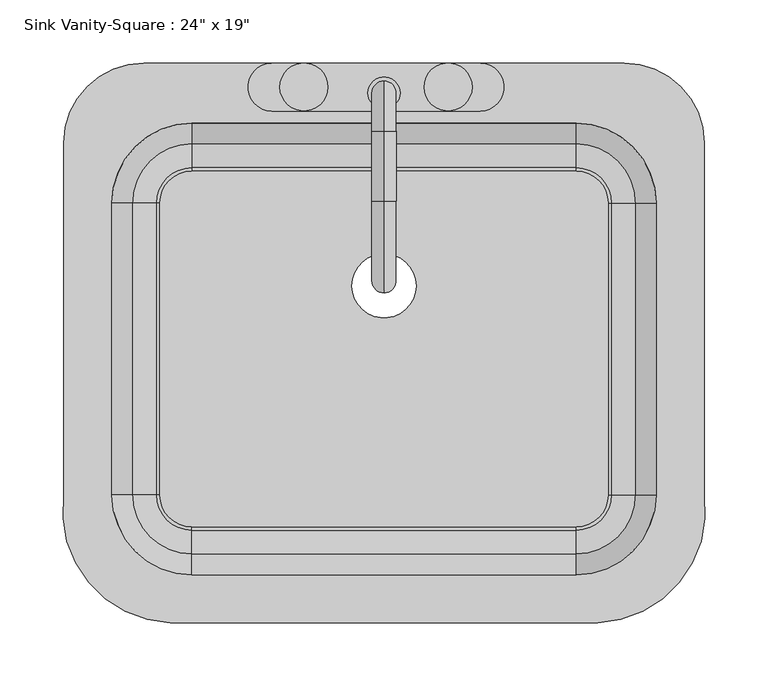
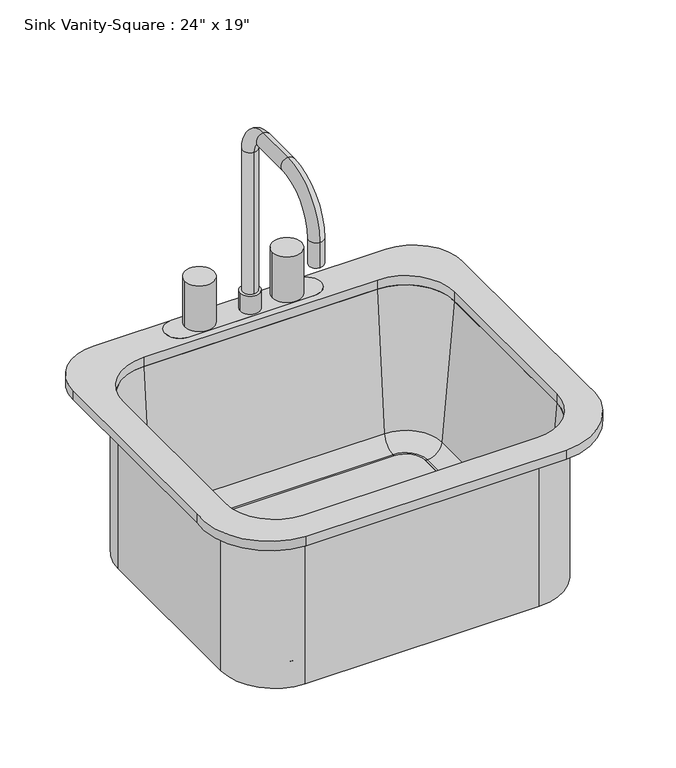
"""IFC4 building model written with IfcOpenShell, lengths in millimetres: flow terminal geometry."""

import ifcopenshell
import ifcopenshell.guid

model = None  # the IFC model being written
_history = None  # IfcOwnerHistory: only IFC2X3 demands one
_inside = {}  # id of a spatial element -> (the spatial element, [elements in it])
_under = {}  # id of a project, library or spatial element -> (it, [spatial elements below it])
_declared = {}  # id of a project -> (the project, [libraries it declares])
_typed = {}  # id of a type object -> (the type object, [elements of that type])
_made_of = {}  # id of a material, layer set ... -> (it, [elements and type objects made of it])


def new_model(schema):
    """Start an empty IFC model of exactly this schema.

    Asked for "IFC4X3", IfcOpenShell would pick the latest addendum, in which some entities
    have other attributes; the version numbers below select the first issue.
    IFC2X3 requires an IfcOwnerHistory on every rooted entity: one is made here for all.
    """
    global model, _history
    if schema == "IFC4X3":
        model = ifcopenshell.file(schema_version=(4, 3, 0, 0))
    else:
        model = ifcopenshell.file(schema=schema)
    _inside.clear()
    _under.clear()
    _declared.clear()
    _typed.clear()
    _made_of.clear()
    _history = None
    if model.schema == "IFC2X3":
        org = make("IfcOrganization", Name="unknown")
        user = make(
            "IfcPersonAndOrganization",
            ThePerson=make("IfcPerson", FamilyName="unknown"),
            TheOrganization=org,
        )
        app = make(
            "IfcApplication",
            ApplicationDeveloper=org,
            Version="unknown",
            ApplicationFullName="unknown",
            ApplicationIdentifier="unknown",
        )
        _history = make(
            "IfcOwnerHistory",
            OwningUser=user,
            OwningApplication=app,
            ChangeAction="ADDED",
            CreationDate=0,
        )
    return model


def make(cls, **values):
    """One entity of the class cls with the attributes given. An attribute that is None is left unset."""
    return model.create_entity(
        cls, **{name: value for name, value in values.items() if value is not None}
    )


def rooted(cls, **values):
    """An entity with a GlobalId (a new one), such as an element, a storey or a relation."""
    return make(cls, GlobalId=ifcopenshell.guid.new(), OwnerHistory=_history, **values)


def si_unit(unit_type, name, prefix=None):
    """IfcSIUnit, for example si_unit("LENGTHUNIT", "METRE", prefix="MILLI")."""
    return make("IfcSIUnit", UnitType=unit_type, Prefix=prefix, Name=name)


def assignment(units):
    """IfcUnitAssignment: the units of a project."""
    return None if units is None else make("IfcUnitAssignment", Units=units)


def point(xyz):
    """IfcCartesianPoint."""
    return None if xyz is None else make("IfcCartesianPoint", Coordinates=xyz)


def direction(xyz):
    """IfcDirection."""
    return None if xyz is None else make("IfcDirection", DirectionRatios=xyz)


def frame(location, z_axis=None, x_axis=None):
    """IfcAxis2Placement3D, a coordinate frame: its origin and axes. An axis left out is left unset."""
    return make(
        "IfcAxis2Placement3D",
        Location=point(location),
        Axis=direction(z_axis),
        RefDirection=direction(x_axis),
    )


def frame_2d(location, x_axis=None):
    """IfcAxis2Placement2D, a coordinate frame in the plane: its origin and x axis."""
    return make(
        "IfcAxis2Placement2D", Location=point(location), RefDirection=direction(x_axis)
    )


def origin():
    """The frame at (0, 0, 0) with its axes left unset."""
    return frame((0.0, 0.0, 0.0))


def place(relative_to, where):
    """IfcLocalPlacement: puts the frame where relative to a parent placement (None: the world)."""
    return make(
        "IfcLocalPlacement", PlacementRelTo=relative_to, RelativePlacement=where
    )


def context(
    kind, dimensions, precision=None, world=None, true_north=None, identifier=None
):
    """IfcGeometricRepresentationContext, for example the 3D "Model" context."""
    return make(
        "IfcGeometricRepresentationContext",
        ContextIdentifier=identifier,
        ContextType=kind,
        CoordinateSpaceDimension=dimensions,
        Precision=precision,
        WorldCoordinateSystem=world,
        TrueNorth=true_north,
    )


def project(units=None, contexts=None):
    """IfcProject with its units and contexts."""
    return rooted(
        "IfcProject",
        Name="project",
        RepresentationContexts=contexts,
        UnitsInContext=assignment(units),
    )


def spatial(cls, under=None, at=None, **own):
    """A site, building, storey or space (cls), placed at a placement, below another one or the project."""
    s = rooted(cls, ObjectPlacement=at, **own)
    if under is not None:
        _under.setdefault(under.id(), (under, []))[1].append(s)
    return s


def polyline(points):
    """IfcPolyline through the points."""
    return make("IfcPolyline", Points=[point(p) for p in points])


def circle_curve(where, radius):
    """IfcCircle in the frame where."""
    return make("IfcCircle", Position=where, Radius=radius)


def ellipse_curve(where, semi_axis1, semi_axis2):
    """IfcEllipse in the frame where."""
    return make(
        "IfcEllipse", Position=where, SemiAxis1=semi_axis1, SemiAxis2=semi_axis2
    )


def trimmed(basis, trim1, trim2, sense, master):
    """IfcTrimmedCurve: the piece of a basis curve between two trims."""
    return make(
        "IfcTrimmedCurve",
        BasisCurve=basis,
        Trim1=trim1,
        Trim2=trim2,
        SenseAgreement=sense,
        MasterRepresentation=master,
    )


def segment(curve, same_sense, transition):
    """IfcCompositeCurveSegment."""
    return make(
        "IfcCompositeCurveSegment",
        Transition=transition,
        SameSense=same_sense,
        ParentCurve=curve,
    )


def composite_curve(segments, self_intersect=None):
    """IfcCompositeCurve: segments joined end to end."""
    return make("IfcCompositeCurve", Segments=segments, SelfIntersect=self_intersect)


def outline(outer, holes=None, kind="AREA"):
    """IfcArbitraryClosedProfileDef: a profile drawn as a closed curve; with holes, ...WithVoids."""
    if holes is None:
        return make("IfcArbitraryClosedProfileDef", ProfileType=kind, OuterCurve=outer)
    return make(
        "IfcArbitraryProfileDefWithVoids",
        ProfileType=kind,
        OuterCurve=outer,
        InnerCurves=holes,
    )


def extrude(swept, where, along, depth):
    """IfcExtrudedAreaSolid: the profile swept, set in the frame where, extruded along a direction by depth."""
    return make(
        "IfcExtrudedAreaSolid",
        SweptArea=swept,
        Position=where,
        ExtrudedDirection=direction(along),
        Depth=depth,
    )


def shape(context_of_items, identifier, shape_type, items):
    """IfcShapeRepresentation: the items that make up one representation, for example the "Body"."""
    return make(
        "IfcShapeRepresentation",
        ContextOfItems=context_of_items,
        RepresentationIdentifier=identifier,
        RepresentationType=shape_type,
        Items=items,
    )


def source(mapping_origin, context_of_items, identifier, shape_type, items):
    """IfcRepresentationMap: a shape defined once, which mapped items show again and again."""
    return make(
        "IfcRepresentationMap",
        MappingOrigin=mapping_origin,
        MappedRepresentation=shape(context_of_items, identifier, shape_type, items),
    )


def transform(
    local_origin,
    x_axis=None,
    y_axis=None,
    z_axis=None,
    scale=None,
    scale2=None,
    scale3=None,
    uniform=True,
):
    """IfcCartesianTransformationOperator3D, or its non-uniform kind. x_axis, y_axis, z_axis: its Axis1, 2, 3."""
    if uniform:
        return make(
            "IfcCartesianTransformationOperator3D",
            Axis1=direction(x_axis),
            Axis2=direction(y_axis),
            LocalOrigin=point(local_origin),
            Scale=scale,
            Axis3=direction(z_axis),
        )
    return make(
        "IfcCartesianTransformationOperator3DnonUniform",
        Axis1=direction(x_axis),
        Axis2=direction(y_axis),
        LocalOrigin=point(local_origin),
        Scale=scale,
        Axis3=direction(z_axis),
        Scale2=scale2,
        Scale3=scale3,
    )


def mapped(mapping_source, mapping_target):
    """IfcMappedItem: shows the shape of a source again, moved by a transform."""
    return make(
        "IfcMappedItem", MappingSource=mapping_source, MappingTarget=mapping_target
    )


def made_of(thing, what):
    """Note that an element or type object is made of a material, layer set ...; save() writes the relation."""
    if what is not None:
        _made_of.setdefault(what.id(), (what, []))[1].append(thing)
    return thing


def element(
    cls,
    number,
    at=None,
    inside=None,
    cuts=None,
    type_object=None,
    material=None,
    context=None,
    identifier="Body",
    shape_type=None,
    held_by="IfcProductDefinitionShape",
    body=None,
    shapes=None,
    **own,
):
    """One element of the class cls, such as IfcWall. Its Tag is "e" and its number.

    at: its placement. inside: the storey or other place that contains it. cuts: it is an
    opening in that element (IfcRelVoidsElement). A single representation is given by context,
    identifier, shape_type and body (its items); several are given by shapes. held_by: the class
    of the entity that holds the representations. save() writes the other relations.
    """
    e = rooted(cls, Tag="e%d" % number, ObjectPlacement=at, **own)
    if body is not None:
        shapes = [shape(context, identifier, shape_type, body)]
    if shapes is not None:
        e.Representation = make(held_by, Representations=shapes)
    if inside is not None:
        _inside.setdefault(inside.id(), (inside, []))[1].append(e)
    if cuts is not None:
        rooted(
            "IfcRelVoidsElement", RelatingBuildingElement=cuts, RelatedOpeningElement=e
        )
    if type_object is not None:
        _typed.setdefault(type_object.id(), (type_object, []))[1].append(e)
    return made_of(e, material)


def aggregate(whole, parts):
    """IfcRelAggregates: a whole, such as a stair, and the parts it consists of."""
    return rooted("IfcRelAggregates", RelatingObject=whole, RelatedObjects=parts)


def save(model, path):
    """Write the relations noted so far, then the file.

    IfcRelAggregates (storeys below a building ...), IfcRelContainedInSpatialStructure (elements
    in a storey), IfcRelDefinesByType, IfcRelAssociatesMaterial and IfcRelDeclares: one each for
    every whole, place, type object, material and project.
    """
    for whole, parts in _under.values():
        aggregate(whole, parts)
    for where, things in _inside.values():
        rooted(
            "IfcRelContainedInSpatialStructure",
            RelatedElements=things,
            RelatingStructure=where,
        )
    for kind, things in _typed.values():
        rooted("IfcRelDefinesByType", RelatedObjects=things, RelatingType=kind)
    for what, things in _made_of.values():
        rooted("IfcRelAssociatesMaterial", RelatedObjects=things, RelatingMaterial=what)
    for by, libraries in _declared.values():
        rooted("IfcRelDeclares", RelatingContext=by, RelatedDefinitions=libraries)
    model.write(path)


def plane_surface(at):
    """IfcPlane: the flat surface through the origin of the frame at, square to its z axis."""
    return make("IfcPlane", Position=at)


def cylinder_surface(at, radius):
    """IfcCylindricalSurface: all points at the distance radius from the z axis of the frame at."""
    return make("IfcCylindricalSurface", Position=at, Radius=radius)


def revolved_surface(curve, axis_point, axis_direction):
    """IfcSurfaceOfRevolution: the curve turned about the line through axis_point along axis_direction."""
    return make(
        "IfcSurfaceOfRevolution",
        SweptCurve=make("IfcArbitraryOpenProfileDef", ProfileType="CURVE", Curve=curve),
        AxisPosition=make("IfcAxis1Placement", Location=point(axis_point), Axis=direction(axis_direction)),
    )


def advanced_brep(points, edges, surfaces, faces):
    """IfcAdvancedBrep: a solid bounded by faces that lie on surfaces and meet in shared edges.

    An edge is (start, end): straight between two places in points (the first is 0);
    or (start, end, curve); or (start, end, curve, False) where it runs against its curve.
    A face is (place in surfaces, loops), or (place, loops, False) where it looks against
    its surface's normal. A loop lists edges by number (the first is 1), with a minus sign
    where the edge is run from its end to its start. The first loop is the outer one.
    """
    corners = [point(p) for p in points]
    vertices = [make("IfcVertexPoint", VertexGeometry=c) for c in corners]
    made = []
    for start, end, *more in edges:
        made.append(
            make(
                "IfcEdgeCurve",
                EdgeStart=vertices[start],
                EdgeEnd=vertices[end],
                EdgeGeometry=more[0] if more else make("IfcPolyline", Points=[corners[start], corners[end]]),
                SameSense=more[1] if len(more) > 1 else True,
            )
        )
    hull = []
    for where, loops, *sense in faces:
        bounds = []
        for j, loop in enumerate(loops):
            ring = [make("IfcOrientedEdge", EdgeElement=made[abs(k) - 1], Orientation=k > 0) for k in loop]
            bounds.append(
                make(
                    "IfcFaceOuterBound" if j == 0 else "IfcFaceBound",
                    Bound=make("IfcEdgeLoop", EdgeList=ring),
                    Orientation=True,
                )
            )
        hull.append(make("IfcAdvancedFace", Bounds=bounds, FaceSurface=surfaces[where], SameSense=sense[0] if sense else True))
    return make("IfcAdvancedBrep", Outer=make("IfcClosedShell", CfsFaces=hull))


def flow_terminal_0aeb31e3(model_context):
    return source(origin(), model_context, "Body", "SolidModel", [
        extrude(outline(composite_curve([segment(trimmed(circle_curve(frame_2d((91.8892406, 161.0954011)), 19.05), [point((91.8892406, 180.1454011))], [point((91.8892406, 142.0454011))], False, "CARTESIAN"), True, "CONTINUOUS"), segment(polyline([(91.8892406, 142.0454011), (-73.2107594, 142.0454011)]), True, "CONTINUOUS"), segment(trimmed(circle_curve(frame_2d((-73.2107594, 161.0954011)), 19.05), [point((-73.2107594, 142.0454011))], [point((-73.2107594, 180.1454011))], False, "CARTESIAN"), True, "CONTINUOUS"), segment(polyline([(-73.2107594, 180.1454011), (91.8892406, 180.1454011)]), True, "CONTINUOUS")], self_intersect=False)), frame((0.0, 0.0, 775.2), z_axis=(0.0, 0.0, 1.0), x_axis=(1.0, 0.0, 0.0)), (0.0, 0.0, 1.0), 24.9),
        extrude(outline(composite_curve([segment(trimmed(circle_curve(frame_2d((15.6892406, 156.3329011)), 12.7), [point((2.9892406, 156.3329011))], [point((28.3892406, 156.3329011))], False, "CARTESIAN"), True, "CONTINUOUS"), segment(trimmed(circle_curve(frame_2d((15.6892406, 156.3329011)), 12.7), [point((28.3892406, 156.3329011))], [point((2.9892406, 156.3329011))], False, "CARTESIAN"), True, "CONTINUOUS")], self_intersect=False)), frame((0.0, 0.0, 800.1), z_axis=(0.0, 0.0, 1.0), x_axis=(1.0, 0.0, 0.0)), (0.0, 0.0, 1.0), 25.4),
        advanced_brep(
        [(15.6892406, 165.8579011, 800.1), (15.6892406, 146.8079011, 800.1), (15.6892406, 165.8579011, 1020.7625), (15.6892406, 146.8079011, 1020.7625), (15.6892406, 126.1704011, 1041.4), (15.6892406, 126.1704011, 1060.45), (15.6892406, 70.6079011, 1060.45), (15.6892406, 70.6079011, 1041.4), (15.6892406, 16.6329011, 987.425), (15.6892406, -2.4170989, 987.425), (15.6892406, -2.4170989, 952.5), (15.6892406, 16.6329011, 952.5)],
        [
            (0, 1, circle_curve(frame((15.6892406, 156.3329011, 800.1), z_axis=(0.0, 0.0, -1.0), x_axis=(0.0, -1.0, 0.0)), 9.525)),
            (1, 0, circle_curve(frame((15.6892406, 156.3329011, 800.1), z_axis=(0.0, 0.0, -1.0), x_axis=(0.0, -1.0, 0.0)), 9.525)),
            (0, 2),
            (2, 3, circle_curve(frame((15.6892406, 156.3329011, 1020.7625), z_axis=(0.0, 0.0, -1.0), x_axis=(0.0, -1.0, 0.0)), 9.525)),
            (3, 1),
            (3, 2, circle_curve(frame((15.6892406, 156.3329011, 1020.7625), z_axis=(0.0, 0.0, -1.0), x_axis=(0.0, -1.0, 0.0)), 9.525)),
            (4, 3, circle_curve(frame((15.6892406, 126.1704011, 1020.7625), z_axis=(-1.0, 0.0, 0.0), x_axis=(0.0, 1.0, 0.0)), 20.6375)),
            (2, 5, circle_curve(frame((15.6892406, 126.1704011, 1020.7625), z_axis=(1.0, 0.0, 0.0), x_axis=(0.0, 1.0, 0.0)), 39.6875)),
            (5, 4, circle_curve(frame((15.6892406, 126.1704011, 1050.925), z_axis=(0.0, 1.0, 0.0), x_axis=(0.0, 0.0, -1.0)), 9.525)),
            (4, 5, circle_curve(frame((15.6892406, 126.1704011, 1050.925), z_axis=(0.0, 1.0, 0.0), x_axis=(0.0, 0.0, -1.0)), 9.525)),
            (5, 6),
            (6, 7, circle_curve(frame((15.6892406, 70.6079011, 1050.925), z_axis=(0.0, 1.0, 0.0), x_axis=(0.0, 0.0, -1.0)), 9.525)),
            (7, 4),
            (7, 6, circle_curve(frame((15.6892406, 70.6079011, 1050.925), z_axis=(0.0, 1.0, 0.0), x_axis=(0.0, 0.0, -1.0)), 9.525)),
            (8, 7, circle_curve(frame((15.6892406, 70.6079011, 987.425), z_axis=(-1.0, 0.0, 0.0), x_axis=(0.0, 0.0, 1.0)), 53.975)),
            (6, 9, circle_curve(frame((15.6892406, 70.6079011, 987.425), z_axis=(1.0, 0.0, 0.0), x_axis=(0.0, 0.0, 1.0)), 73.025)),
            (9, 8, circle_curve(frame((15.6892406, 7.1079011, 987.425), z_axis=(0.0, 0.0, 1.0), x_axis=(0.0, 1.0, 0.0)), 9.525)),
            (8, 9, circle_curve(frame((15.6892406, 7.1079011, 987.425), z_axis=(0.0, 0.0, 1.0), x_axis=(0.0, 1.0, 0.0)), 9.525)),
            (10, 11, circle_curve(frame((15.6892406, 7.1079011, 952.5), z_axis=(0.0, 0.0, -1.0), x_axis=(0.0, 1.0, 0.0)), 9.525)),
            (11, 10, circle_curve(frame((15.6892406, 7.1079011, 952.5), z_axis=(0.0, 0.0, -1.0), x_axis=(0.0, 1.0, 0.0)), 9.525)),
            (9, 10),
            (11, 8),
        ],
        [
            plane_surface(frame((15.6892406, 146.8079011, 800.1), z_axis=(0.0, 0.0, -1.0), x_axis=(1.0, 0.0, 0.0))),
            cylinder_surface(frame((15.6892406, 156.3329011, 800.1), z_axis=(0.0, 0.0, -1.0), x_axis=(0.0, -1.0, 0.0)), 9.525),
            revolved_surface(trimmed(ellipse_curve(frame((15.6892406, 156.3329011, 1020.7625), z_axis=(0.0, 0.0, -1.0), x_axis=(0.0, -1.0, 0.0)), 9.525, 9.525), [point((15.6892406, 165.8579011, 1020.7625))], [point((15.6892406, 146.8079011, 1020.7625))], True, "CARTESIAN"), (15.6892406, 126.1704011, 1020.7625), (1.0, 0.0, 0.0)),
            revolved_surface(trimmed(ellipse_curve(frame((15.6892406, 156.3329011, 1020.7625), z_axis=(0.0, 0.0, -1.0), x_axis=(0.0, -1.0, 0.0)), 9.525, 9.525), [point((15.6892406, 146.8079011, 1020.7625))], [point((15.6892406, 165.8579011, 1020.7625))], True, "CARTESIAN"), (15.6892406, 126.1704011, 1020.7625), (1.0, 0.0, 0.0)),
            cylinder_surface(frame((15.6892406, 126.1704011, 1050.925), z_axis=(0.0, 1.0, 0.0), x_axis=(0.0, 0.0, -1.0)), 9.525),
            revolved_surface(trimmed(ellipse_curve(frame((15.6892406, 70.6079011, 1050.925), z_axis=(0.0, 1.0, 0.0), x_axis=(0.0, 0.0, -1.0)), 9.525, 9.525), [point((15.6892406, 70.6079011, 1060.45))], [point((15.6892406, 70.6079011, 1041.4))], True, "CARTESIAN"), (15.6892406, 70.6079011, 987.425), (1.0, 0.0, 0.0)),
            revolved_surface(trimmed(ellipse_curve(frame((15.6892406, 70.6079011, 1050.925), z_axis=(0.0, 1.0, 0.0), x_axis=(0.0, 0.0, -1.0)), 9.525, 9.525), [point((15.6892406, 70.6079011, 1041.4))], [point((15.6892406, 70.6079011, 1060.45))], True, "CARTESIAN"), (15.6892406, 70.6079011, 987.425), (1.0, 0.0, 0.0)),
            plane_surface(frame((15.6892406, -2.4170989, 952.5), z_axis=(0.0, 0.0, -1.0), x_axis=(-1.0, 0.0, 0.0))),
            cylinder_surface(frame((15.6892406, 7.1079011, 987.425), z_axis=(0.0, 0.0, 1.0), x_axis=(0.0, 1.0, 0.0)), 9.525),
        ],
        [
            (0, [[1, 2]]),
            (1, [[-1, 3, 4, 5]]),
            (1, [[-2, -5, 6, -3]]),
            (2, [[7, -4, 8, 9]]),
            (3, [[-8, -6, -7, 10]]),
            (4, [[-9, 11, 12, 13]]),
            (4, [[-10, -13, 14, -11]]),
            (5, [[15, -12, 16, 17]]),
            (6, [[-16, -14, -15, 18]]),
            (7, [[19, 20]]),
            (8, [[-17, 21, -20, 22]]),
            (8, [[-18, -22, -19, -21]]),
        ],
    ),
        extrude(outline(composite_curve([segment(trimmed(circle_curve(frame_2d((-47.8107594, 161.0954011)), 19.05), [point((-66.8607594, 161.0954011))], [point((-28.7607594, 161.0954011))], False, "CARTESIAN"), True, "CONTINUOUS"), segment(trimmed(circle_curve(frame_2d((-47.8107594, 161.0954011)), 19.05), [point((-28.7607594, 161.0954011))], [point((-66.8607594, 161.0954011))], False, "CARTESIAN"), True, "CONTINUOUS")], self_intersect=False)), frame((0.0, 0.0, 800.1), z_axis=(0.0, 0.0, 1.0), x_axis=(1.0, 0.0, 0.0)), (0.0, 0.0, 1.0), 63.5),
        extrude(outline(composite_curve([segment(trimmed(circle_curve(frame_2d((66.4892406, 161.0954011)), 19.05), [point((47.4392406, 161.0954011))], [point((85.5392406, 161.0954011))], False, "CARTESIAN"), True, "CONTINUOUS"), segment(trimmed(circle_curve(frame_2d((66.4892406, 161.0954011)), 19.05), [point((85.5392406, 161.0954011))], [point((47.4392406, 161.0954011))], False, "CARTESIAN"), True, "CONTINUOUS")], self_intersect=False)), frame((0.0, 0.0, 800.1), z_axis=(0.0, 0.0, 1.0), x_axis=(1.0, 0.0, 0.0)), (0.0, 0.0, 1.0), 63.5),
        extrude(outline(composite_curve([segment(trimmed(circle_curve(frame_2d((168.0892406, 69.0204011)), 25.4), [point((168.0892406, 94.4204011))], [point((193.4892406, 69.0204011))], False, "CARTESIAN"), True, "CONTINUOUS"), segment(polyline([(193.4892406, 69.0204011), (193.4892406, -162.7545989)]), True, "CONTINUOUS"), segment(trimmed(circle_curve(frame_2d((168.0892406, -162.7545989)), 25.4), [point((193.4892406, -162.7545989))], [point((168.0892406, -188.1545989))], False, "CARTESIAN"), True, "CONTINUOUS"), segment(polyline([(168.0892406, -188.1545989), (-136.7107594, -188.1545989)]), True, "CONTINUOUS"), segment(trimmed(circle_curve(frame_2d((-136.7107594, -162.7545989)), 25.4), [point((-136.7107594, -188.1545989))], [point((-162.1107594, -162.7545989))], False, "CARTESIAN"), True, "CONTINUOUS"), segment(polyline([(-162.1107594, -162.7545989), (-162.1107594, 69.0204011)]), True, "CONTINUOUS"), segment(trimmed(circle_curve(frame_2d((-136.7107594, 69.0204011)), 25.4), [point((-162.1107594, 69.0204011))], [point((-136.7107594, 94.4204011))], False, "CARTESIAN"), True, "CONTINUOUS"), segment(polyline([(-136.7107594, 94.4204011), (168.0892406, 94.4204011)]), True, "CONTINUOUS")], self_intersect=False), holes=[composite_curve([segment(trimmed(circle_curve(frame_2d((15.6892406, 3.175)), 25.4), [point((-9.7107594, 3.175))], [point((41.0892406, 3.175))], True, "CARTESIAN"), True, "CONTINUOUS"), segment(trimmed(circle_curve(frame_2d((15.6892406, 3.175)), 25.4), [point((41.0892406, 3.175))], [point((-9.7107594, 3.175))], True, "CARTESIAN"), True, "CONTINUOUS")], self_intersect=False)]), frame((0.0, 0.0, 571.5), z_axis=(0.0, 0.0, 1.0), x_axis=(1.0, 0.0, 0.0)), (0.0, 0.0, 1.0), 9.525),
        advanced_brep(
        [(237.9392406, 69.0204011, 571.5), (168.0892406, 138.8704011, 571.5), (168.0892406, 138.8704011, 787.4), (237.9392406, 69.0204011, 787.4), (193.4892406, 69.0204011, 571.5), (168.0892406, 94.4204011, 571.5), (193.4892406, 69.0204011, 581.025), (168.0892406, 94.4204011, 581.025), (196.0776588, 69.0204011, 581.025), (168.0892406, 97.0088193, 581.025), (215.0551678, 69.0204011, 598.4146831), (168.0892406, 115.9863283, 598.4146831), (231.5892406, 69.0204011, 787.4), (168.0892406, 132.5204011, 787.4), (237.9392406, -162.7545989, 787.4), (237.9392406, -162.7545989, 571.5), (193.4892406, -162.7545989, 571.5), (193.4892406, -162.7545989, 581.025), (196.0776588, -162.7545989, 581.025), (215.0551678, -162.7545989, 598.4146831), (231.5892406, -162.7545989, 787.4), (168.0892406, -232.6045989, 571.5), (168.0892406, -232.6045989, 787.4), (168.0892406, -188.1545989, 571.5), (168.0892406, -188.1545989, 581.025), (168.0892406, -190.7430171, 581.025), (168.0892406, -209.7205261, 598.4146831), (168.0892406, -226.2545989, 787.4), (-136.7107594, -232.6045989, 787.4), (-136.7107594, -232.6045989, 571.5), (-136.7107594, -188.1545989, 571.5), (-136.7107594, -188.1545989, 581.025), (-136.7107594, -190.7430171, 581.025), (-136.7107594, -209.7205261, 598.4146831), (-136.7107594, -226.2545989, 787.4), (-206.5607594, -162.7545989, 571.5), (-206.5607594, -162.7545989, 787.4), (-162.1107594, -162.7545989, 571.5), (-162.1107594, -162.7545989, 581.025), (-164.6991776, -162.7545989, 581.025), (-183.6766866, -162.7545989, 598.4146831), (-200.2107594, -162.7545989, 787.4), (-206.5607594, 69.0204011, 787.4), (-206.5607594, 69.0204011, 571.5), (-162.1107594, 69.0204011, 571.5), (-162.1107594, 69.0204011, 581.025), (-164.6991776, 69.0204011, 581.025), (-183.6766866, 69.0204011, 598.4146831), (-200.2107594, 69.0204011, 787.4), (-136.7107594, 138.8704011, 571.5), (-136.7107594, 138.8704011, 787.4), (-136.7107594, 94.4204011, 571.5), (-136.7107594, 94.4204011, 581.025), (-136.7107594, 97.0088193, 581.025), (-136.7107594, 115.9863283, 598.4146831), (-136.7107594, 132.5204011, 787.4)],
        [
            (0, 1, circle_curve(frame((168.0892406, 69.0204011, 571.5), z_axis=(0.0, 0.0, 1.0), x_axis=(0.0, 1.0, 0.0)), 69.85)),
            (1, 2),
            (2, 3, circle_curve(frame((168.0892406, 69.0204011, 787.4), z_axis=(0.0, 0.0, -1.0), x_axis=(0.0, 1.0, 0.0)), 69.85)),
            (3, 0),
            (4, 5, circle_curve(frame((168.0892406, 69.0204011, 571.5), z_axis=(0.0, 0.0, 1.0), x_axis=(0.0, 1.0, 0.0)), 25.4)),
            (5, 1),
            (0, 4),
            (6, 7, circle_curve(frame((168.0892406, 69.0204011, 581.025), z_axis=(0.0, 0.0, 1.0), x_axis=(0.0, 1.0, 0.0)), 25.4)),
            (7, 5),
            (4, 6),
            (8, 9, circle_curve(frame((168.0892406, 69.0204011, 581.025), z_axis=(0.0, 0.0, 1.0), x_axis=(0.0, 1.0, 0.0)), 27.9884182)),
            (9, 7),
            (6, 8),
            (10, 11, circle_curve(frame((168.0892406, 69.0204011, 598.4146831), z_axis=(0.0, 0.0, 1.0), x_axis=(0.0, 1.0, 0.0)), 46.9659272)),
            (11, 9, circle_curve(frame((168.0892406, 97.0088193, 600.075), z_axis=(-1.0, 0.0, 0.0), x_axis=(0.0, 1.0, 0.0)), 19.05)),
            (8, 10, circle_curve(frame((196.0776588, 69.0204011, 600.075), z_axis=(0.0, -1.0, 0.0), x_axis=(1.0, 0.0, 0.0)), 19.05)),
            (12, 13, circle_curve(frame((168.0892406, 69.0204011, 787.4), z_axis=(0.0, 0.0, 1.0), x_axis=(0.0, 1.0, 0.0)), 63.5)),
            (13, 11),
            (10, 12),
            (2, 13),
            (12, 3),
            (3, 14),
            (14, 15),
            (15, 0),
            (15, 16),
            (16, 4),
            (16, 17),
            (17, 6),
            (17, 18),
            (18, 8),
            (18, 19, circle_curve(frame((196.0776588, -162.7545989, 600.075), z_axis=(0.0, -1.0, 0.0), x_axis=(1.0, 0.0, 0.0)), 19.05)),
            (19, 10),
            (19, 20),
            (20, 12),
            (20, 14),
            (21, 15, circle_curve(frame((168.0892406, -162.7545989, 571.5), z_axis=(0.0, 0.0, 1.0), x_axis=(1.0, 0.0, 0.0)), 69.85)),
            (14, 22, circle_curve(frame((168.0892406, -162.7545989, 787.4), z_axis=(0.0, 0.0, -1.0), x_axis=(1.0, 0.0, 0.0)), 69.85)),
            (22, 21),
            (23, 16, circle_curve(frame((168.0892406, -162.7545989, 571.5), z_axis=(0.0, 0.0, 1.0), x_axis=(1.0, 0.0, 0.0)), 25.4)),
            (21, 23),
            (24, 17, circle_curve(frame((168.0892406, -162.7545989, 581.025), z_axis=(0.0, 0.0, 1.0), x_axis=(1.0, 0.0, 0.0)), 25.4)),
            (23, 24),
            (25, 18, circle_curve(frame((168.0892406, -162.7545989, 581.025), z_axis=(0.0, 0.0, 1.0), x_axis=(1.0, 0.0, 0.0)), 27.9884182)),
            (24, 25),
            (26, 19, circle_curve(frame((168.0892406, -162.7545989, 598.4146831), z_axis=(0.0, 0.0, 1.0), x_axis=(1.0, 0.0, 0.0)), 46.9659272)),
            (25, 26, circle_curve(frame((168.0892406, -190.7430171, 600.075), z_axis=(-1.0, 0.0, 0.0), x_axis=(0.0, -1.0, 0.0)), 19.05)),
            (27, 20, circle_curve(frame((168.0892406, -162.7545989, 787.4), z_axis=(0.0, 0.0, 1.0), x_axis=(1.0, 0.0, 0.0)), 63.5)),
            (26, 27),
            (27, 22),
            (22, 28),
            (28, 29),
            (29, 21),
            (29, 30),
            (30, 23),
            (30, 31),
            (31, 24),
            (31, 32),
            (32, 25),
            (32, 33, circle_curve(frame((-136.7107594, -190.7430171, 600.075), z_axis=(-1.0, 0.0, 0.0), x_axis=(0.0, -1.0, 0.0)), 19.05)),
            (33, 26),
            (33, 34),
            (34, 27),
            (34, 28),
            (35, 29, circle_curve(frame((-136.7107594, -162.7545989, 571.5), z_axis=(0.0, 0.0, 1.0), x_axis=(0.0, -1.0, 0.0)), 69.85)),
            (28, 36, circle_curve(frame((-136.7107594, -162.7545989, 787.4), z_axis=(0.0, 0.0, -1.0), x_axis=(0.0, -1.0, 0.0)), 69.85)),
            (36, 35),
            (37, 30, circle_curve(frame((-136.7107594, -162.7545989, 571.5), z_axis=(0.0, 0.0, 1.0), x_axis=(0.0, -1.0, 0.0)), 25.4)),
            (35, 37),
            (38, 31, circle_curve(frame((-136.7107594, -162.7545989, 581.025), z_axis=(0.0, 0.0, 1.0), x_axis=(0.0, -1.0, 0.0)), 25.4)),
            (37, 38),
            (39, 32, circle_curve(frame((-136.7107594, -162.7545989, 581.025), z_axis=(0.0, 0.0, 1.0), x_axis=(0.0, -1.0, 0.0)), 27.9884182)),
            (38, 39),
            (40, 33, circle_curve(frame((-136.7107594, -162.7545989, 598.4146831), z_axis=(0.0, 0.0, 1.0), x_axis=(0.0, -1.0, 0.0)), 46.9659272)),
            (39, 40, circle_curve(frame((-164.6991776, -162.7545989, 600.075), z_axis=(0.0, 1.0, 0.0), x_axis=(-1.0, 0.0, 0.0)), 19.05)),
            (41, 34, circle_curve(frame((-136.7107594, -162.7545989, 787.4), z_axis=(0.0, 0.0, 1.0), x_axis=(0.0, -1.0, 0.0)), 63.5)),
            (40, 41),
            (41, 36),
            (36, 42),
            (42, 43),
            (43, 35),
            (43, 44),
            (44, 37),
            (44, 45),
            (45, 38),
            (45, 46),
            (46, 39),
            (46, 47, circle_curve(frame((-164.6991776, 69.0204011, 600.075), z_axis=(0.0, 1.0, 0.0), x_axis=(-1.0, 0.0, 0.0)), 19.05)),
            (47, 40),
            (47, 48),
            (48, 41),
            (48, 42),
            (49, 43, circle_curve(frame((-136.7107594, 69.0204011, 571.5), z_axis=(0.0, 0.0, 1.0), x_axis=(-1.0, 0.0, 0.0)), 69.85)),
            (42, 50, circle_curve(frame((-136.7107594, 69.0204011, 787.4), z_axis=(0.0, 0.0, -1.0), x_axis=(-1.0, 0.0, 0.0)), 69.85)),
            (50, 49),
            (51, 44, circle_curve(frame((-136.7107594, 69.0204011, 571.5), z_axis=(0.0, 0.0, 1.0), x_axis=(-1.0, 0.0, 0.0)), 25.4)),
            (49, 51),
            (52, 45, circle_curve(frame((-136.7107594, 69.0204011, 581.025), z_axis=(0.0, 0.0, 1.0), x_axis=(-1.0, 0.0, 0.0)), 25.4)),
            (51, 52),
            (53, 46, circle_curve(frame((-136.7107594, 69.0204011, 581.025), z_axis=(0.0, 0.0, 1.0), x_axis=(-1.0, 0.0, 0.0)), 27.9884182)),
            (52, 53),
            (54, 47, circle_curve(frame((-136.7107594, 69.0204011, 598.4146831), z_axis=(0.0, 0.0, 1.0), x_axis=(-1.0, 0.0, 0.0)), 46.9659272)),
            (53, 54, circle_curve(frame((-136.7107594, 97.0088193, 600.075), z_axis=(1.0, 0.0, 0.0), x_axis=(0.0, 1.0, 0.0)), 19.05)),
            (55, 48, circle_curve(frame((-136.7107594, 69.0204011, 787.4), z_axis=(0.0, 0.0, 1.0), x_axis=(-1.0, 0.0, 0.0)), 63.5)),
            (54, 55),
            (55, 50),
            (50, 2),
            (1, 49),
            (5, 51),
            (7, 52),
            (9, 53),
            (11, 54),
            (13, 55),
        ],
        [
            cylinder_surface(frame((168.0892406, 69.0204011, 0.0), z_axis=(0.0, 0.0, -1.0), x_axis=(0.0, 1.0, 0.0)), 69.85),
            plane_surface(frame((168.0892406, 69.0204011, 571.5), z_axis=(0.0, 0.0, -1.0), x_axis=(0.0, 1.0, 0.0))),
            revolved_surface(polyline([(168.0892406, 94.42040109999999, 571.5), (168.0892406, 94.42040109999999, 581.025)]), (168.0892406, 69.0204011, 0.0), (0.0, 0.0, -1.0)),
            plane_surface(frame((168.0892406, 69.0204011, 581.025), z_axis=(0.0, 0.0, 1.0), x_axis=(0.0, 1.0, 0.0))),
            revolved_surface(trimmed(ellipse_curve(frame((168.0892406, 97.0088193, 600.075), z_axis=(1.0, 0.0, 0.0), x_axis=(0.0, 1.0, 0.0)), 19.05, 19.05), [point((168.0892406, 97.0088193, 581.025))], [point((168.0892406, 115.9863283, 598.4146831))], True, "CARTESIAN"), (168.0892406, 69.0204011, 0.0), (0.0, 0.0, -1.0)),
            revolved_surface(polyline([(168.0892406, 115.9863283, 598.4146831), (168.0892406, 132.5204011, 787.4)]), (168.0892406, 69.0204011, 0.0), (0.0, 0.0, -1.0)),
            plane_surface(frame((168.0892406, 69.0204011, 787.4), z_axis=(0.0, 0.0, 1.0), x_axis=(0.0, 1.0, 0.0))),
            plane_surface(frame((237.9392406, 69.0204011, 787.4), z_axis=(1.0, 0.0, 0.0), x_axis=(0.0, -1.0, 0.0))),
            plane_surface(frame((237.9392406, 69.0204011, 571.5), z_axis=(0.0, 0.0, -1.0), x_axis=(0.0, -1.0, 0.0))),
            plane_surface(frame((193.4892406, 69.0204011, 571.5), z_axis=(-1.0, 0.0, 0.0), x_axis=(0.0, -1.0, 0.0))),
            plane_surface(frame((193.4892406, 69.0204011, 581.025), z_axis=(0.0, 0.0, 1.0), x_axis=(0.0, -1.0, 0.0))),
            revolved_surface(polyline([(215.1276588, -162.75459889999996, 600.075), (215.1276588, 69.0204011, 600.075)]), (196.0776588, 69.0204011, 600.075), (0.0, -1.0, 0.0)),
            plane_surface(frame((215.0551678, 69.0204011, 598.4146831), z_axis=(-0.9961946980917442, 0.0, 0.08715574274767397), x_axis=(0.0, -1.0, 0.0))),
            plane_surface(frame((231.5892406, 69.0204011, 787.4), z_axis=(0.0, 0.0, 1.0), x_axis=(0.0, -1.0, 0.0))),
            cylinder_surface(frame((168.0892406, -162.7545989, 0.0), z_axis=(0.0, 0.0, -1.0), x_axis=(1.0, 0.0, 0.0)), 69.85),
            plane_surface(frame((168.0892406, -162.7545989, 571.5), z_axis=(0.0, 0.0, -1.0), x_axis=(1.0, 0.0, 0.0))),
            revolved_surface(polyline([(193.48924060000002, -162.7545989, 571.5), (193.48924060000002, -162.7545989, 581.025)]), (168.0892406, -162.7545989, 0.0), (0.0, 0.0, -1.0)),
            plane_surface(frame((168.0892406, -162.7545989, 581.025), z_axis=(0.0, 0.0, 1.0), x_axis=(1.0, 0.0, 0.0))),
            revolved_surface(trimmed(ellipse_curve(frame((196.0776588, -162.7545989, 600.075), z_axis=(0.0, -1.0, 0.0), x_axis=(1.0, 0.0, 0.0)), 19.05, 19.05), [point((196.0776588, -162.7545989, 581.025))], [point((215.0551678, -162.7545989, 598.4146831))], True, "CARTESIAN"), (168.0892406, -162.7545989, 0.0), (0.0, 0.0, -1.0)),
            revolved_surface(polyline([(215.0551678, -162.7545989, 598.4146831), (231.5892406, -162.7545989, 787.4)]), (168.0892406, -162.7545989, 0.0), (0.0, 0.0, -1.0)),
            plane_surface(frame((168.0892406, -162.7545989, 787.4), z_axis=(0.0, 0.0, 1.0), x_axis=(1.0, 0.0, 0.0))),
            plane_surface(frame((168.0892406, -232.6045989, 787.4), z_axis=(0.0, -1.0, 0.0), x_axis=(-1.0, 0.0, 0.0))),
            plane_surface(frame((168.0892406, -232.6045989, 571.5), z_axis=(0.0, 0.0, -1.0), x_axis=(-1.0, 0.0, 0.0))),
            plane_surface(frame((168.0892406, -188.1545989, 571.5), z_axis=(0.0, 1.0, 0.0), x_axis=(-1.0, 0.0, 0.0))),
            plane_surface(frame((168.0892406, -188.1545989, 581.025), z_axis=(0.0, 0.0, 1.0), x_axis=(-1.0, 0.0, 0.0))),
            revolved_surface(polyline([(-136.7107594, -209.79301710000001, 600.075), (168.0892406, -209.79301710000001, 600.075)]), (168.0892406, -190.7430171, 600.075), (-1.0, 0.0, 0.0)),
            plane_surface(frame((168.0892406, -209.7205261, 598.4146831), z_axis=(0.0, 0.9961946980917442, 0.08715574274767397), x_axis=(-1.0, 0.0, 0.0))),
            plane_surface(frame((168.0892406, -226.2545989, 787.4), z_axis=(0.0, 0.0, 1.0), x_axis=(-1.0, 0.0, 0.0))),
            cylinder_surface(frame((-136.7107594, -162.7545989, 0.0), z_axis=(0.0, 0.0, -1.0), x_axis=(0.0, -1.0, 0.0)), 69.85),
            plane_surface(frame((-136.7107594, -162.7545989, 571.5), z_axis=(0.0, 0.0, -1.0), x_axis=(0.0, -1.0, 0.0))),
            revolved_surface(polyline([(-136.7107594, -188.1545989, 571.5), (-136.7107594, -188.1545989, 581.025)]), (-136.7107594, -162.7545989, 0.0), (0.0, 0.0, -1.0)),
            plane_surface(frame((-136.7107594, -162.7545989, 581.025), z_axis=(0.0, 0.0, 1.0), x_axis=(0.0, -1.0, 0.0))),
            revolved_surface(trimmed(ellipse_curve(frame((-136.7107594, -190.7430171, 600.075), z_axis=(-1.0, 0.0, 0.0), x_axis=(0.0, -1.0, 0.0)), 19.05, 19.05), [point((-136.7107594, -190.7430171, 581.025))], [point((-136.7107594, -209.7205261, 598.4146831))], True, "CARTESIAN"), (-136.7107594, -162.7545989, 0.0), (0.0, 0.0, -1.0)),
            revolved_surface(polyline([(-136.7107594, -209.7205261, 598.4146831), (-136.7107594, -226.2545989, 787.4)]), (-136.7107594, -162.7545989, 0.0), (0.0, 0.0, -1.0)),
            plane_surface(frame((-136.7107594, -162.7545989, 787.4), z_axis=(0.0, 0.0, 1.0), x_axis=(0.0, -1.0, 0.0))),
            plane_surface(frame((-206.5607594, -162.7545989, 787.4), z_axis=(-1.0, 0.0, 0.0), x_axis=(0.0, 1.0, 0.0))),
            plane_surface(frame((-206.5607594, -162.7545989, 571.5), z_axis=(0.0, 0.0, -1.0), x_axis=(0.0, 1.0, 0.0))),
            plane_surface(frame((-162.1107594, -162.7545989, 571.5), z_axis=(1.0, 0.0, 0.0), x_axis=(0.0, 1.0, 0.0))),
            plane_surface(frame((-162.1107594, -162.7545989, 581.025), z_axis=(0.0, 0.0, 1.0), x_axis=(0.0, 1.0, 0.0))),
            revolved_surface(polyline([(-183.74917760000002, 69.02040109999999, 600.075), (-183.74917760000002, -162.7545989, 600.075)]), (-164.6991776, -162.7545989, 600.075), (0.0, 1.0, 0.0)),
            plane_surface(frame((-183.6766866, -162.7545989, 598.4146831), z_axis=(0.9961946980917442, 0.0, 0.08715574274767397), x_axis=(0.0, 1.0, 0.0))),
            plane_surface(frame((-200.2107594, -162.7545989, 787.4), z_axis=(0.0, 0.0, 1.0), x_axis=(0.0, 1.0, 0.0))),
            cylinder_surface(frame((-136.7107594, 69.0204011, 0.0), z_axis=(0.0, 0.0, -1.0), x_axis=(-1.0, 0.0, 0.0)), 69.85),
            plane_surface(frame((-136.7107594, 69.0204011, 571.5), z_axis=(0.0, 0.0, -1.0), x_axis=(-1.0, 0.0, 0.0))),
            revolved_surface(polyline([(-162.1107594, 69.0204011, 571.5), (-162.1107594, 69.0204011, 581.025)]), (-136.7107594, 69.0204011, 0.0), (0.0, 0.0, -1.0)),
            plane_surface(frame((-136.7107594, 69.0204011, 581.025), z_axis=(0.0, 0.0, 1.0), x_axis=(-1.0, 0.0, 0.0))),
            revolved_surface(trimmed(ellipse_curve(frame((-164.6991776, 69.0204011, 600.075), z_axis=(0.0, 1.0, 0.0), x_axis=(-1.0, 0.0, 0.0)), 19.05, 19.05), [point((-164.6991776, 69.0204011, 581.025))], [point((-183.6766866, 69.0204011, 598.4146831))], True, "CARTESIAN"), (-136.7107594, 69.0204011, 0.0), (0.0, 0.0, -1.0)),
            revolved_surface(polyline([(-183.6766866, 69.0204011, 598.4146831), (-200.2107594, 69.0204011, 787.4)]), (-136.7107594, 69.0204011, 0.0), (0.0, 0.0, -1.0)),
            plane_surface(frame((-136.7107594, 69.0204011, 787.4), z_axis=(0.0, 0.0, 1.0), x_axis=(-1.0, 0.0, 0.0))),
            plane_surface(frame((-136.7107594, 138.8704011, 787.4), z_axis=(0.0, 1.0, 0.0), x_axis=(1.0, 0.0, 0.0))),
            plane_surface(frame((-136.7107594, 138.8704011, 571.5), z_axis=(0.0, 0.0, -1.0), x_axis=(1.0, 0.0, 0.0))),
            plane_surface(frame((-136.7107594, 94.4204011, 571.5), z_axis=(0.0, -1.0, 0.0), x_axis=(1.0, 0.0, 0.0))),
            plane_surface(frame((-136.7107594, 94.4204011, 581.025), z_axis=(0.0, 0.0, 1.0), x_axis=(1.0, 0.0, 0.0))),
            revolved_surface(polyline([(168.0892406, 116.0588193, 600.075), (-136.7107594, 116.0588193, 600.075)]), (-136.7107594, 97.0088193, 600.075), (1.0, 0.0, 0.0)),
            plane_surface(frame((-136.7107594, 115.9863283, 598.4146831), z_axis=(0.0, -0.9961946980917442, 0.08715574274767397), x_axis=(1.0, 0.0, 0.0))),
            plane_surface(frame((-136.7107594, 132.5204011, 787.4), z_axis=(0.0, 0.0, 1.0), x_axis=(1.0, 0.0, 0.0))),
        ],
        [
            (0, [[1, 2, 3, 4]]),
            (1, [[5, 6, -1, 7]]),
            (2, [[8, 9, -5, 10]]),
            (3, [[11, 12, -8, 13]]),
            (4, [[14, 15, -11, 16]]),
            (5, [[17, 18, -14, 19]]),
            (6, [[-3, 20, -17, 21]]),
            (7, [[-4, 22, 23, 24]]),
            (8, [[-7, -24, 25, 26]]),
            (9, [[-10, -26, 27, 28]]),
            (10, [[-13, -28, 29, 30]]),
            (11, [[-16, -30, 31, 32]]),
            (12, [[-19, -32, 33, 34]]),
            (13, [[-21, -34, 35, -22]]),
            (14, [[36, -23, 37, 38]]),
            (15, [[39, -25, -36, 40]]),
            (16, [[41, -27, -39, 42]]),
            (17, [[43, -29, -41, 44]]),
            (18, [[45, -31, -43, 46]]),
            (19, [[47, -33, -45, 48]]),
            (20, [[-37, -35, -47, 49]]),
            (21, [[-38, 50, 51, 52]]),
            (22, [[-40, -52, 53, 54]]),
            (23, [[-42, -54, 55, 56]]),
            (24, [[-44, -56, 57, 58]]),
            (25, [[-46, -58, 59, 60]]),
            (26, [[-48, -60, 61, 62]]),
            (27, [[-49, -62, 63, -50]]),
            (28, [[64, -51, 65, 66]]),
            (29, [[67, -53, -64, 68]]),
            (30, [[69, -55, -67, 70]]),
            (31, [[71, -57, -69, 72]]),
            (32, [[73, -59, -71, 74]]),
            (33, [[75, -61, -73, 76]]),
            (34, [[-65, -63, -75, 77]]),
            (35, [[-66, 78, 79, 80]]),
            (36, [[-68, -80, 81, 82]]),
            (37, [[-70, -82, 83, 84]]),
            (38, [[-72, -84, 85, 86]]),
            (39, [[-74, -86, 87, 88]]),
            (40, [[-76, -88, 89, 90]]),
            (41, [[-77, -90, 91, -78]]),
            (42, [[92, -79, 93, 94]]),
            (43, [[95, -81, -92, 96]]),
            (44, [[97, -83, -95, 98]]),
            (45, [[99, -85, -97, 100]]),
            (46, [[101, -87, -99, 102]]),
            (47, [[103, -89, -101, 104]]),
            (48, [[-93, -91, -103, 105]]),
            (49, [[-94, 106, -2, 107]]),
            (50, [[-96, -107, -6, 108]]),
            (51, [[-98, -108, -9, 109]]),
            (52, [[-100, -109, -12, 110]]),
            (53, [[-102, -110, -15, 111]]),
            (54, [[-104, -111, -18, 112]]),
            (55, [[-105, -112, -20, -106]]),
        ],
    ),
        extrude(outline(composite_curve([segment(trimmed(circle_curve(frame_2d((-150.1534746, -175.3793432)), 89.0566732), [point((-153.9606923, -264.3545989))], [point((-238.3107593, -162.7545982))], False, "CARTESIAN"), True, "CONTINUOUS"), segment(polyline([(-238.3107593, -162.7545982), (-238.3107593, 116.6454011)]), True, "CONTINUOUS"), segment(trimmed(circle_curve(frame_2d((-174.8107593, 116.6454011)), 63.5), [point((-238.3107593, 116.6454011))], [point((-174.8107593, 180.1454011))], False, "CARTESIAN"), True, "CONTINUOUS"), segment(polyline([(-174.8107593, 180.1454011), (206.1892406, 180.1454011)]), True, "CONTINUOUS"), segment(trimmed(circle_curve(frame_2d((206.1892406, 116.6454011)), 63.5), [point((206.1892406, 180.1454011))], [point((269.6892406, 116.6454011))], False, "CARTESIAN"), True, "CONTINUOUS"), segment(polyline([(269.6892406, 116.6454011), (269.6892406, -162.7545989)]), True, "CONTINUOUS"), segment(trimmed(circle_curve(frame_2d((181.5319557, -175.3793432)), 89.0566732), [point((269.6892406, -162.7545989))], [point((185.3391735, -264.3545989))], False, "CARTESIAN"), True, "CONTINUOUS"), segment(polyline([(185.3391735, -264.3545989), (-153.9606923, -264.3545989)]), True, "CONTINUOUS")], self_intersect=False), holes=[composite_curve([segment(polyline([(168.0892406, 132.5204011), (-136.7107594, 132.5204011)]), True, "CONTINUOUS"), segment(trimmed(circle_curve(frame_2d((-136.7107594, 69.0204011)), 63.5), [point((-136.7107594, 132.5204011))], [point((-200.2107594, 69.0204011))], True, "CARTESIAN"), True, "CONTINUOUS"), segment(polyline([(-200.2107594, 69.0204011), (-200.2107594, -162.7545989)]), True, "CONTINUOUS"), segment(trimmed(circle_curve(frame_2d((-136.7107594, -162.7545989)), 63.5), [point((-200.2107594, -162.7545989))], [point((-136.7107594, -226.2545989))], True, "CARTESIAN"), True, "CONTINUOUS"), segment(polyline([(-136.7107594, -226.2545989), (168.0892406, -226.2545989)]), True, "CONTINUOUS"), segment(trimmed(circle_curve(frame_2d((168.0892406, -162.7545989)), 63.5), [point((168.0892406, -226.2545989))], [point((231.5892406, -162.7545989))], True, "CARTESIAN"), True, "CONTINUOUS"), segment(polyline([(231.5892406, -162.7545989), (231.5892406, 69.0204011)]), True, "CONTINUOUS"), segment(trimmed(circle_curve(frame_2d((168.0892406, 69.0204011)), 63.5), [point((231.5892406, 69.0204011))], [point((168.0892406, 132.5204011))], True, "CARTESIAN"), True, "CONTINUOUS")], self_intersect=False)]), frame((0.0, 0.0, 787.4), z_axis=(0.0, 0.0, 1.0), x_axis=(1.0, 0.0, 0.0)), (0.0, 0.0, 1.0), 12.7),
    ])


if __name__ == "__main__":
    model = new_model("IFC4")
    model_context = context("Model", 3, world=origin())
    ifc_project = project(units=[si_unit("LENGTHUNIT", "METRE", prefix="MILLI")], contexts=[model_context])
    site = spatial("IfcSite", under=ifc_project)
    building = spatial("IfcBuilding", under=site)
    placement = place(None, origin())
    flow_terminal_shape = flow_terminal_0aeb31e3(model_context)
    element("IfcFlowTerminal", 1, ObjectType="Sink Vanity-Square : 24\" x 19\"", at=placement, inside=building, context=model_context, shape_type="MappedRepresentation", body=[
        mapped(flow_terminal_shape, transform((0.0, 0.0, 0.0), x_axis=(1.0, 0.0, 0.0), y_axis=(0.0, 1.0, 0.0), z_axis=(0.0, 0.0, 1.0))),
    ])
    save(model, "model.ifc")
